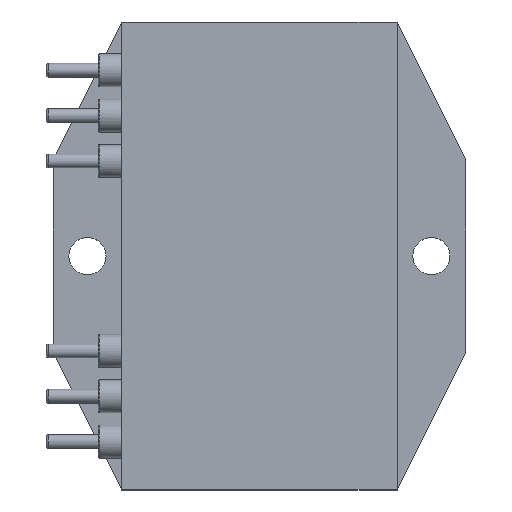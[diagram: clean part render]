
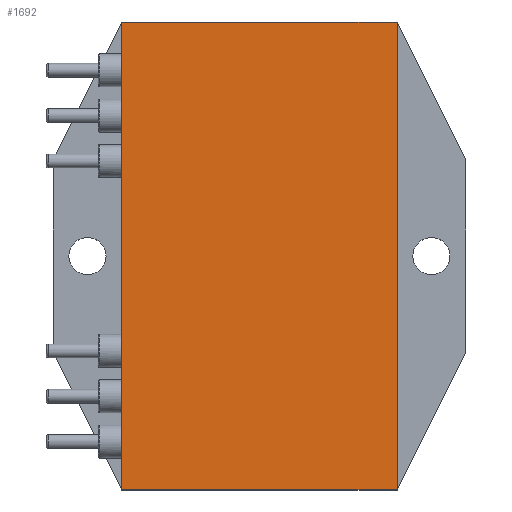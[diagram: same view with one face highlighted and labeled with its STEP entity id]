
A CAD part, top view. The second image highlights one B-rep face of the part: STEP entity #1692.
In plain terms, the highlighted planar face has unit normal (0, 0, 1).
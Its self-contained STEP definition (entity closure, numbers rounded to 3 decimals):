
#293=FACE_OUTER_BOUND('',#417,.T.);
#417=EDGE_LOOP('',(#1222,#1223,#1224,#1225));
#637=LINE('',#2719,#717);
#638=LINE('',#2721,#718);
#639=LINE('',#2723,#719);
#640=LINE('',#2724,#720);
#717=VECTOR('',#2173,10.);
#718=VECTOR('',#2174,10.);
#719=VECTOR('',#2175,10.);
#720=VECTOR('',#2176,10.);
#807=VERTEX_POINT('',#2717);
#808=VERTEX_POINT('',#2718);
#809=VERTEX_POINT('',#2720);
#810=VERTEX_POINT('',#2722);
#982=EDGE_CURVE('',#807,#808,#637,.T.);
#983=EDGE_CURVE('',#809,#807,#638,.T.);
#984=EDGE_CURVE('',#810,#809,#639,.T.);
#985=EDGE_CURVE('',#808,#810,#640,.T.);
#1222=ORIENTED_EDGE('',*,*,#982,.F.);
#1223=ORIENTED_EDGE('',*,*,#983,.F.);
#1224=ORIENTED_EDGE('',*,*,#984,.F.);
#1225=ORIENTED_EDGE('',*,*,#985,.F.);
#1514=PLANE('',#1848);
#1692=ADVANCED_FACE('',(#293),#1514,.T.);
#1848=AXIS2_PLACEMENT_3D('',#2716,#2171,#2172);
#2171=DIRECTION('center_axis',(0.,0.,1.));
#2172=DIRECTION('ref_axis',(1.,0.,0.));
#2173=DIRECTION('',(0.,-1.,0.));
#2174=DIRECTION('',(1.,0.,0.));
#2175=DIRECTION('',(0.,1.,0.));
#2176=DIRECTION('',(-1.,0.,0.));
#2716=CARTESIAN_POINT('Origin',(0.,0.,9.));
#2717=CARTESIAN_POINT('',(10.,17.,9.));
#2718=CARTESIAN_POINT('',(10.,-17.,9.));
#2719=CARTESIAN_POINT('',(10.,-17.,9.));
#2720=CARTESIAN_POINT('',(-10.,17.,9.));
#2721=CARTESIAN_POINT('',(10.,17.,9.));
#2722=CARTESIAN_POINT('',(-10.,-17.,9.));
#2723=CARTESIAN_POINT('',(-10.,17.,9.));
#2724=CARTESIAN_POINT('',(-10.,-17.,9.));
